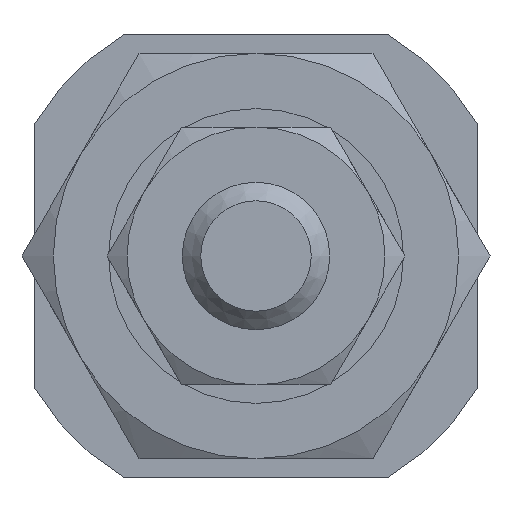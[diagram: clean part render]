
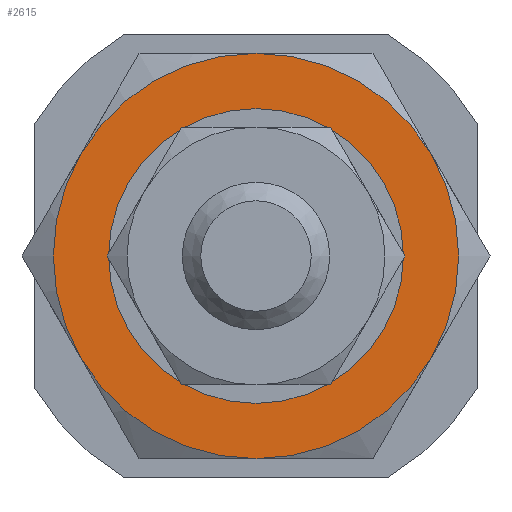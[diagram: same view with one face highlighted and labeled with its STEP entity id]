
A CAD part, left-side view. The second image highlights one B-rep face of the part: STEP entity #2615.
In plain terms, the highlighted planar face has unit normal (-1, 0, 0).
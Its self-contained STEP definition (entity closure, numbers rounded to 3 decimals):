
#844=CARTESIAN_POINT('',(-105.899,4.763,-2.75));
#845=VERTEX_POINT('',#844);
#861=CARTESIAN_POINT('',(-105.899,4.763,2.75));
#862=VERTEX_POINT('',#861);
#863=CARTESIAN_POINT('',(-105.899,0.,0.0));
#864=DIRECTION('',(-1.0,0.0,0.0));
#865=DIRECTION('',(0.0,-1.0,0.0));
#866=AXIS2_PLACEMENT_3D('',#863,#864,#865);
#867=CIRCLE('',#866,5.5);
#868=EDGE_CURVE('',#862,#845,#867,.T.);
#893=CARTESIAN_POINT('',(-105.899,0.,5.5));
#894=VERTEX_POINT('',#893);
#921=CARTESIAN_POINT('',(-105.899,0.,0.0));
#922=DIRECTION('',(-1.0,0.0,0.0));
#923=DIRECTION('',(0.0,-1.0,0.0));
#924=AXIS2_PLACEMENT_3D('',#921,#922,#923);
#925=CIRCLE('',#924,5.5);
#926=EDGE_CURVE('',#894,#862,#925,.T.);
#936=CARTESIAN_POINT('',(-105.899,0.,-5.5));
#937=VERTEX_POINT('',#936);
#953=CARTESIAN_POINT('',(-105.899,0.,0.0));
#954=DIRECTION('',(-1.0,0.0,0.0));
#955=DIRECTION('',(0.0,-1.0,0.0));
#956=AXIS2_PLACEMENT_3D('',#953,#954,#955);
#957=CIRCLE('',#956,5.5);
#958=EDGE_CURVE('',#845,#937,#957,.T.);
#983=CARTESIAN_POINT('',(-105.899,-4.763,2.75));
#984=VERTEX_POINT('',#983);
#1011=CARTESIAN_POINT('',(-105.899,0.,0.0));
#1012=DIRECTION('',(-1.0,0.0,0.0));
#1013=DIRECTION('',(0.0,-1.0,0.0));
#1014=AXIS2_PLACEMENT_3D('',#1011,#1012,#1013);
#1015=CIRCLE('',#1014,5.5);
#1016=EDGE_CURVE('',#984,#894,#1015,.T.);
#1026=CARTESIAN_POINT('',(-105.899,-4.763,-2.75));
#1027=VERTEX_POINT('',#1026);
#1043=CARTESIAN_POINT('',(-105.899,0.,0.0));
#1044=DIRECTION('',(-1.0,0.0,0.0));
#1045=DIRECTION('',(0.0,-1.0,0.0));
#1046=AXIS2_PLACEMENT_3D('',#1043,#1044,#1045);
#1047=CIRCLE('',#1046,5.5);
#1048=EDGE_CURVE('',#937,#1027,#1047,.T.);
#1086=CARTESIAN_POINT('',(-105.899,0.,0.0));
#1087=DIRECTION('',(-1.0,0.0,0.0));
#1088=DIRECTION('',(0.0,-1.0,0.0));
#1089=AXIS2_PLACEMENT_3D('',#1086,#1087,#1088);
#1090=CIRCLE('',#1089,5.5);
#1091=EDGE_CURVE('',#1027,#984,#1090,.T.);
#2591=CARTESIAN_POINT('',(-105.899,5.75,0.0));
#2592=DIRECTION('',(-1.0,0.0,0.0));
#2593=DIRECTION('',(0.0,0.0,1.0));
#2594=AXIS2_PLACEMENT_3D('',#2591,#2592,#2593);
#2595=PLANE('',#2594);
#2596=ORIENTED_EDGE('',*,*,#868,.T.);
#2597=ORIENTED_EDGE('',*,*,#958,.T.);
#2598=ORIENTED_EDGE('',*,*,#1048,.T.);
#2599=ORIENTED_EDGE('',*,*,#1091,.T.);
#2600=ORIENTED_EDGE('',*,*,#1016,.T.);
#2601=ORIENTED_EDGE('',*,*,#926,.T.);
#2602=EDGE_LOOP('',(#2596,#2597,#2598,#2599,#2600,#2601));
#2603=FACE_OUTER_BOUND('',#2602,.T.);
#2604=CARTESIAN_POINT('',(-105.899,4.,0.0));
#2605=VERTEX_POINT('',#2604);
#2606=CARTESIAN_POINT('',(-105.899,0.,0.0));
#2607=DIRECTION('',(-1.0,0.0,0.0));
#2608=DIRECTION('',(0.0,1.0,0.0));
#2609=AXIS2_PLACEMENT_3D('',#2606,#2607,#2608);
#2610=CIRCLE('',#2609,4.);
#2611=EDGE_CURVE('',#2605,#2605,#2610,.T.);
#2612=ORIENTED_EDGE('',*,*,#2611,.F.);
#2613=EDGE_LOOP('',(#2612));
#2614=FACE_BOUND('',#2613,.T.);
#2615=ADVANCED_FACE('',(#2603,#2614),#2595,.T.);
